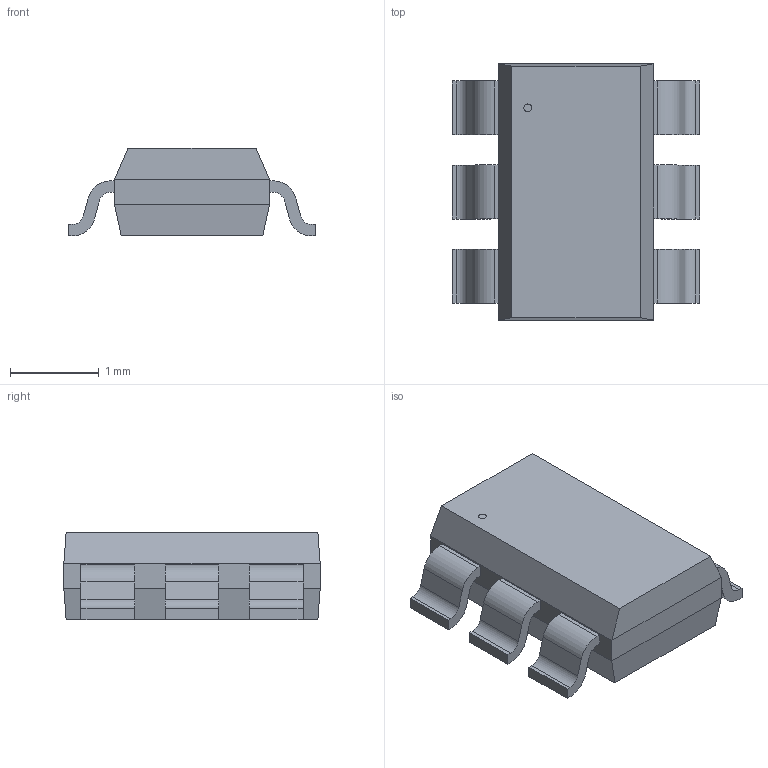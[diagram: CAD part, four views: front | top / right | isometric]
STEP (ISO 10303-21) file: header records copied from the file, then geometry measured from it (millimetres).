
FILE_DESCRIPTION(('STEP AP214'),'1');
FILE_NAME('SOT-6_S_LIT','2024-03-19T02:20:48',(''),(''),'','','');
FILE_SCHEMA(('AUTOMOTIVE_DESIGN'));
Length unit declared in the file: millimetre
Products named in the file (1): product
Bounding box: 2.79 x 2.9 x 0.99 mm (x, y, z)
Volume: 5.2 mm3; surface area: 26.1 mm2
Topology: 8 solids, 8 shells, 101 faces, 247 edges, 162 vertices
Faces by surface type: plane 76, cylinder 25
Full cylindrical faces by diameter (mm): 0.088 x1
Entity records: 2981 total; most frequent: DIRECTION 502, ORIENTED_EDGE 492, CARTESIAN_POINT 291, EDGE_CURVE 246, LINE 196, VECTOR 196, VERTEX_POINT 162, AXIS2_PLACEMENT_3D 153
